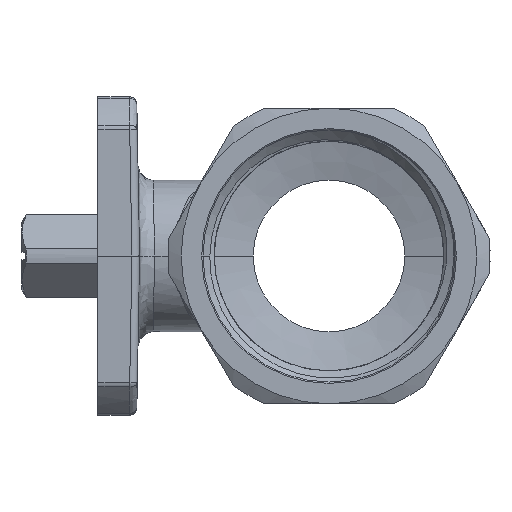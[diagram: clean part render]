
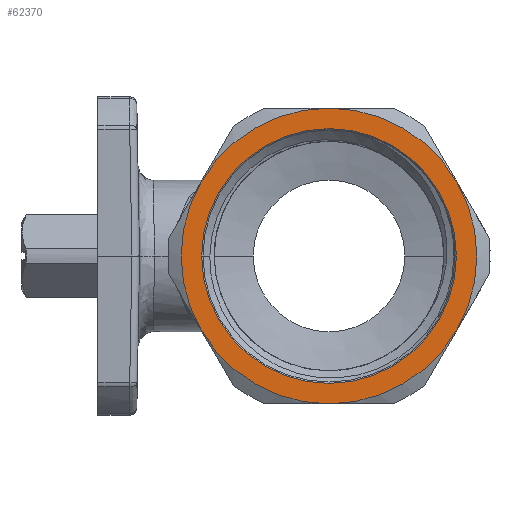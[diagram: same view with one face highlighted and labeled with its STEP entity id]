
A CAD part, left-side view. The second image highlights one B-rep face of the part: STEP entity #62370.
In plain terms, the highlighted planar face has unit normal (-1, 0, 0) as drawn and (1, 0, 0) by its records, which use the part's own axes.
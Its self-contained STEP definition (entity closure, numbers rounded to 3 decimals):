
#57876=CARTESIAN_POINT('',(23.4,0.,0.));
#57877=DIRECTION('',(1.,0.,0.));
#57878=DIRECTION('',(0.,1.,0.));
#57879=AXIS2_PLACEMENT_3D('',#57876,#57877,#57878);
#58416=CARTESIAN_POINT('',(23.4,0.,0.));
#58417=DIRECTION('',(-1.,0.,0.));
#58418=DIRECTION('',(0.,1.,0.));
#58419=AXIS2_PLACEMENT_3D('',#58416,#58417,#58418);
#58421=CARTESIAN_POINT('',(23.4,0.,0.));
#58422=DIRECTION('',(-1.,0.,0.));
#58423=DIRECTION('',(0.,0.866,-0.5));
#58424=AXIS2_PLACEMENT_3D('',#58421,#58422,#58423);
#58426=CARTESIAN_POINT('',(23.4,0.,0.));
#58427=DIRECTION('',(-1.,0.,0.));
#58428=DIRECTION('',(0.,0.,-1.));
#58429=AXIS2_PLACEMENT_3D('',#58426,#58427,#58428);
#58431=CARTESIAN_POINT('',(23.4,0.,0.));
#58432=DIRECTION('',(1.,0.,0.));
#58433=DIRECTION('',(0.,0.,1.));
#58434=AXIS2_PLACEMENT_3D('',#58431,#58432,#58433);
#58436=CARTESIAN_POINT('',(23.4,0.,0.));
#58437=DIRECTION('',(1.,0.,0.));
#58438=DIRECTION('',(0.,0.866,0.5));
#58439=AXIS2_PLACEMENT_3D('',#58436,#58437,#58438);
#58460=CARTESIAN_POINT('',(23.4,0.,0.));
#58461=DIRECTION('',(1.,0.,0.));
#58462=DIRECTION('',(0.,0.866,-0.5));
#58463=AXIS2_PLACEMENT_3D('',#58460,#58461,#58462);
#58522=CARTESIAN_POINT('',(23.4,0.,0.));
#58523=DIRECTION('',(1.,0.,0.));
#58524=DIRECTION('',(0.,-0.866,0.5));
#58525=AXIS2_PLACEMENT_3D('',#58522,#58523,#58524);
#58551=CARTESIAN_POINT('',(23.4,-16.887,
-9.75));
#58581=CARTESIAN_POINT('',(23.4,0.,
-19.5));
#58614=CARTESIAN_POINT('',(23.4,16.887,
-9.75));
#58644=CARTESIAN_POINT('',(23.4,16.887,9.75));
#58674=CARTESIAN_POINT('',(23.4,0.,
19.5));
#58704=CARTESIAN_POINT('',(23.4,-16.887,
9.75));
#60461=CARTESIAN_POINT('',(23.4,16.8,0.));
#60462=CARTESIAN_POINT('',(23.4,-16.8,0.));
#60463=VERTEX_POINT('',#60461);
#60464=VERTEX_POINT('',#60462);
#60470=VERTEX_POINT('',#58644);
#60477=VERTEX_POINT('',#58674);
#60484=VERTEX_POINT('',#58704);
#60487=VERTEX_POINT('',#58551);
#60494=VERTEX_POINT('',#58581);
#60501=VERTEX_POINT('',#58614);
#62347=CARTESIAN_POINT('',(23.4,0.,0.));
#62348=DIRECTION('',(-1.,0.,0.));
#62349=DIRECTION('',(0.,1.,0.));
#62350=AXIS2_PLACEMENT_3D('',#62347,#62348,#62349);
#62351=PLANE('',#62350);
#62353=ORIENTED_EDGE('',*,*,#62352,.F.);
#62355=ORIENTED_EDGE('',*,*,#62354,.T.);
#62357=ORIENTED_EDGE('',*,*,#62356,.T.);
#62359=ORIENTED_EDGE('',*,*,#62358,.F.);
#62361=ORIENTED_EDGE('',*,*,#62360,.F.);
#62363=ORIENTED_EDGE('',*,*,#62362,.F.);
#62364=EDGE_LOOP('',(#62353,#62355,#62357,#62359,#62361,#62363));
#62365=FACE_OUTER_BOUND('',#62364,.F.);
#62366=ORIENTED_EDGE('',*,*,#61733,.T.);
#62367=ORIENTED_EDGE('',*,*,#62341,.F.);
#62368=EDGE_LOOP('',(#62366,#62367));
#62369=FACE_BOUND('',#62368,.F.);
#57880=CIRCLE('',#57879,16.8);
#58420=CIRCLE('',#58419,16.8);
#58425=CIRCLE('',#58424,19.5);
#58430=CIRCLE('',#58429,19.5);
#58435=CIRCLE('',#58434,19.5);
#58440=CIRCLE('',#58439,19.5);
#58464=CIRCLE('',#58463,19.5);
#58526=CIRCLE('',#58525,19.5);
#61733=EDGE_CURVE('',#60463,#60464,#57880,.T.);
#62341=EDGE_CURVE('',#60463,#60464,#58420,.T.);
#62352=EDGE_CURVE('',#60501,#60470,#58464,.T.);
#62354=EDGE_CURVE('',#60501,#60494,#58425,.T.);
#62356=EDGE_CURVE('',#60494,#60487,#58430,.T.);
#62358=EDGE_CURVE('',#60484,#60487,#58526,.T.);
#62360=EDGE_CURVE('',#60477,#60484,#58435,.T.);
#62362=EDGE_CURVE('',#60470,#60477,#58440,.T.);
#62370=ADVANCED_FACE('',(#62365,#62369),#62351,.F.);
